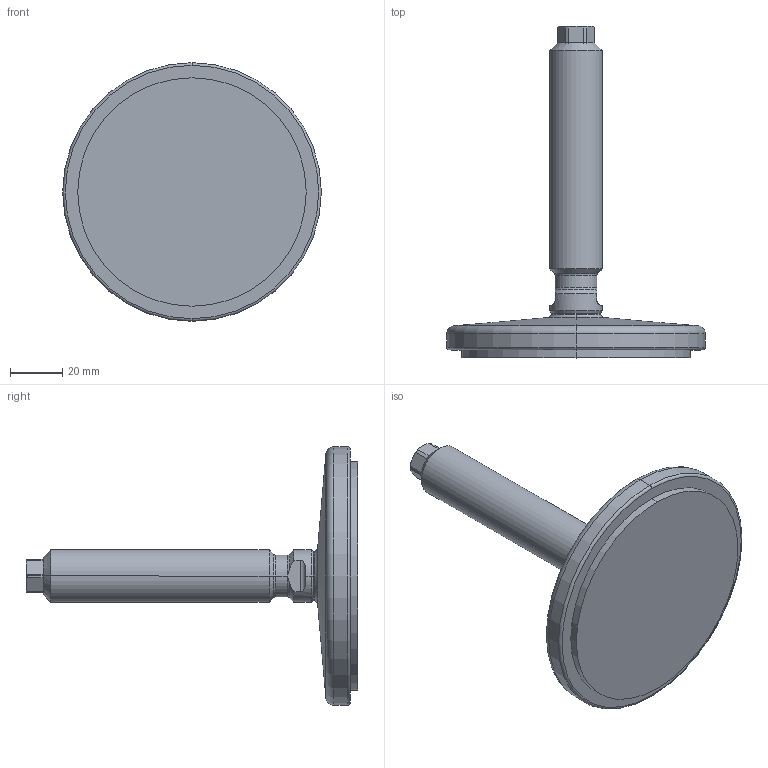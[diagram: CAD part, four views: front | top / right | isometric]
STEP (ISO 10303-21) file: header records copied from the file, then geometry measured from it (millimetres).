
FILE_DESCRIPTION (( 'STEP AP214' ), '1' );
FILE_NAME ('21-100-M20-100-D1-V.step', '2020-10-02T17:37:10', ( '' ), ( '' ), 'SwSTEP 2.0', 'SolidWorks 2019', '' );
FILE_SCHEMA (( 'AUTOMOTIVE_DESIGN' ));
Length unit declared in the file: millimetre
Products named in the file (3): 21-100-M20-100-D1-V; WB21_Fußteller 21^WB21_V_D1-100-R12-B9 (M20); WB21_Spindel_V^WB21_V_M20-100
Assembly tree (2 placements, depth 2):
  21-100-M20-100-D1-V
    WB21_Fußteller 21^WB21_V_D1-100-R12-B9 (M20)
    WB21_Spindel_V^WB21_V_M20-100
Bounding box: 99 x 127.02 x 99 mm (x, y, z)
Volume: 130403.3 mm3; surface area: 26232.6 mm2
Topology: 2 solids, 2 shells, 76 faces, 171 edges, 101 vertices
Faces by surface type: cylinder 25, plane 20, cone 17, torus 10, sphere 4
Entity records: 2387 total; most frequent: CARTESIAN_POINT 505, DIRECTION 390, ORIENTED_EDGE 342, EDGE_CURVE 171, AXIS2_PLACEMENT_3D 166, VERTEX_POINT 101, CIRCLE 85, EDGE_LOOP 78
